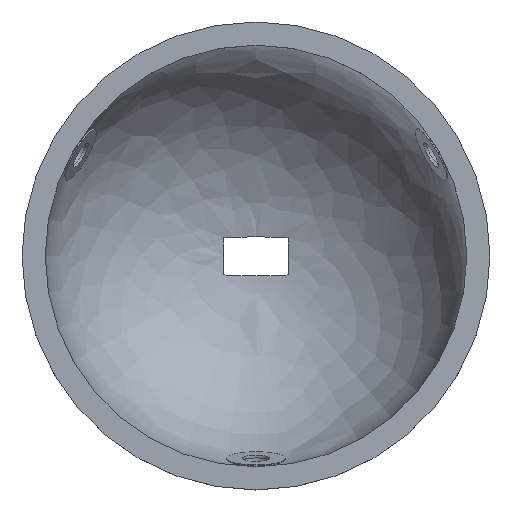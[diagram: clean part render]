
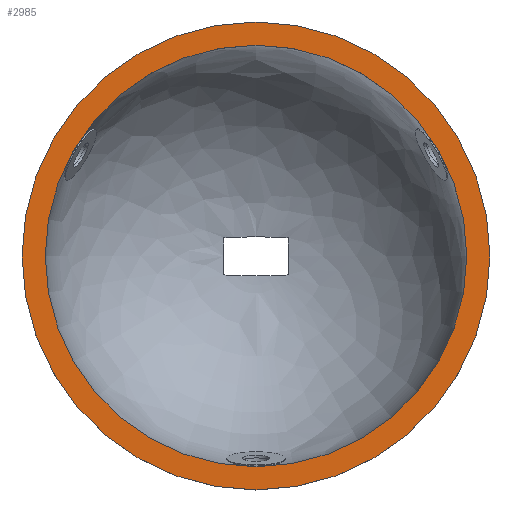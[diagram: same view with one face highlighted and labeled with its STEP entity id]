
A CAD part, top view. The second image highlights one B-rep face of the part: STEP entity #2985.
In plain terms, the highlighted planar face has unit normal (0, 0, 1).
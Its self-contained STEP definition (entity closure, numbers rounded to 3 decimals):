
#652 = CYLINDRICAL_SURFACE('',#653,27.25);
#653 = AXIS2_PLACEMENT_3D('',#654,#655,#656);
#654 = CARTESIAN_POINT('',(0.,0.,-4.));
#655 = DIRECTION('',(0.,0.,1.));
#656 = DIRECTION('',(1.,0.,-0.));
#2300 = VERTEX_POINT('',#2301);
#2301 = CARTESIAN_POINT('',(27.25,0.,0.));
#2322 = EDGE_CURVE('',#2300,#2300,#2323,.T.);
#2323 = SURFACE_CURVE('',#2324,(#2329,#2336),.PCURVE_S1.);
#2324 = CIRCLE('',#2325,27.25);
#2325 = AXIS2_PLACEMENT_3D('',#2326,#2327,#2328);
#2326 = CARTESIAN_POINT('',(0.,0.,0.));
#2327 = DIRECTION('',(0.,0.,1.));
#2328 = DIRECTION('',(1.,0.,-0.));
#2329 = PCURVE('',#652,#2330);
#2330 = DEFINITIONAL_REPRESENTATION('',(#2331),#2335);
#2331 = LINE('',#2332,#2333);
#2332 = CARTESIAN_POINT('',(0.,4.));
#2333 = VECTOR('',#2334,1.);
#2334 = DIRECTION('',(1.,0.));
#2335 = ( GEOMETRIC_REPRESENTATION_CONTEXT(2) 
PARAMETRIC_REPRESENTATION_CONTEXT() REPRESENTATION_CONTEXT('2D SPACE',''
  ) );
#2336 = PCURVE('',#2337,#2342);
#2337 = PLANE('',#2338);
#2338 = AXIS2_PLACEMENT_3D('',#2339,#2340,#2341);
#2339 = CARTESIAN_POINT('',(0.,0.,0.));
#2340 = DIRECTION('',(0.,0.,1.));
#2341 = DIRECTION('',(1.,0.,-0.));
#2342 = DEFINITIONAL_REPRESENTATION('',(#2343),#2347);
#2343 = CIRCLE('',#2344,27.25);
#2344 = AXIS2_PLACEMENT_2D('',#2345,#2346);
#2345 = CARTESIAN_POINT('',(0.,0.));
#2346 = DIRECTION('',(1.,-0.));
#2347 = ( GEOMETRIC_REPRESENTATION_CONTEXT(2) 
PARAMETRIC_REPRESENTATION_CONTEXT() REPRESENTATION_CONTEXT('2D SPACE',''
  ) );
#2985 = ADVANCED_FACE('',(#2986,#2989),#2337,.T.);
#2986 = FACE_BOUND('',#2987,.F.);
#2987 = EDGE_LOOP('',(#2988));
#2988 = ORIENTED_EDGE('',*,*,#2322,.T.);
#2989 = FACE_BOUND('',#2990,.F.);
#2990 = EDGE_LOOP('',(#2991));
#2991 = ORIENTED_EDGE('',*,*,#2992,.F.);
#2992 = EDGE_CURVE('',#2993,#2993,#2995,.T.);
#2993 = VERTEX_POINT('',#2994);
#2994 = CARTESIAN_POINT('',(30.25,0.,0.));
#2995 = SURFACE_CURVE('',#2996,(#3001,#3008),.PCURVE_S1.);
#2996 = CIRCLE('',#2997,30.25);
#2997 = AXIS2_PLACEMENT_3D('',#2998,#2999,#3000);
#2998 = CARTESIAN_POINT('',(0.,0.,0.));
#2999 = DIRECTION('',(0.,0.,1.));
#3000 = DIRECTION('',(1.,0.,-0.));
#3001 = PCURVE('',#2337,#3002);
#3002 = DEFINITIONAL_REPRESENTATION('',(#3003),#3007);
#3003 = CIRCLE('',#3004,30.25);
#3004 = AXIS2_PLACEMENT_2D('',#3005,#3006);
#3005 = CARTESIAN_POINT('',(0.,0.));
#3006 = DIRECTION('',(1.,-0.));
#3007 = ( GEOMETRIC_REPRESENTATION_CONTEXT(2) 
PARAMETRIC_REPRESENTATION_CONTEXT() REPRESENTATION_CONTEXT('2D SPACE',''
  ) );
#3008 = PCURVE('',#3009,#3014);
#3009 = CYLINDRICAL_SURFACE('',#3010,30.25);
#3010 = AXIS2_PLACEMENT_3D('',#3011,#3012,#3013);
#3011 = CARTESIAN_POINT('',(0.,0.,0.));
#3012 = DIRECTION('',(-0.,-0.,-1.));
#3013 = DIRECTION('',(1.,0.,0.));
#3014 = DEFINITIONAL_REPRESENTATION('',(#3015),#3019);
#3015 = LINE('',#3016,#3017);
#3016 = CARTESIAN_POINT('',(-0.,0.));
#3017 = VECTOR('',#3018,1.);
#3018 = DIRECTION('',(-1.,0.));
#3019 = ( GEOMETRIC_REPRESENTATION_CONTEXT(2) 
PARAMETRIC_REPRESENTATION_CONTEXT() REPRESENTATION_CONTEXT('2D SPACE',''
  ) );
